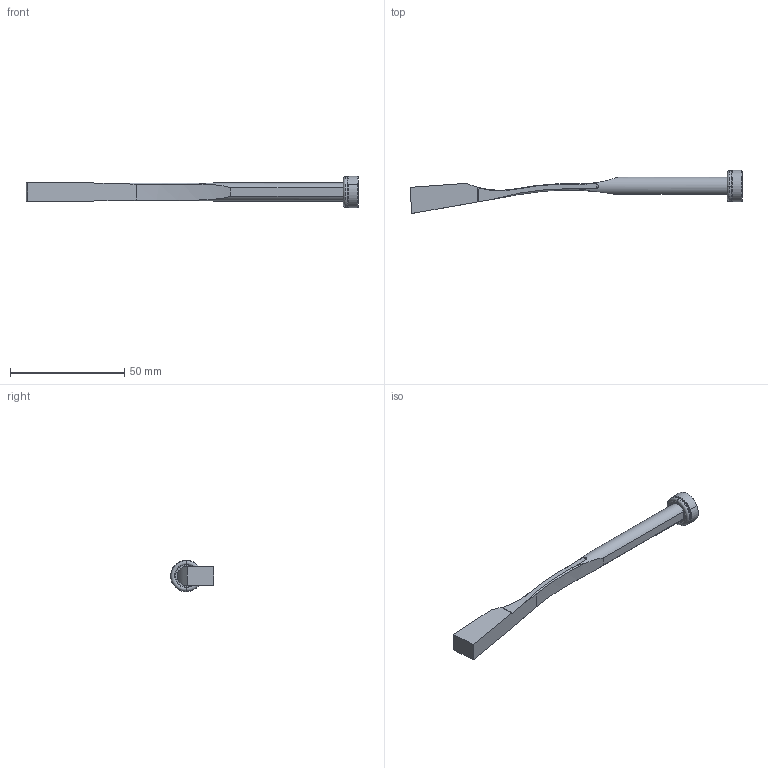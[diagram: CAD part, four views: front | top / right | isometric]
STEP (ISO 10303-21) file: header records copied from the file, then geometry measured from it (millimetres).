
FILE_DESCRIPTION (( 'STEP AP214' ), '1' );
FILE_NAME ('pw080825_ejection.STEP', '2021-07-15T09:12:21', ( '' ), ( '' ), 'SwSTEP 2.0', 'SolidWorks 2019', '' );
FILE_SCHEMA (( 'AUTOMOTIVE_DESIGN' ));
Length unit declared in the file: millimetre
Products named in the file (5): 9FP1406M5; 1DIN7984516_DIN 7984 - M5 x 16 --- 16C; 3JT9.5X2X13.5; pw080825_ejection; 9PW080825
Assembly tree (4 placements, depth 2):
  pw080825_ejection
    9PW080825
    9FP1406M5
    1DIN7984516_DIN 7984 - M5 x 16 --- 16C
    3JT9.5X2X13.5
Bounding box: 145.51 x 18.87 x 13.8 mm (x, y, z)
Volume: 6954.5 mm3; surface area: 5601.5 mm2
Topology: 4 solids, 4 shells, 454 faces, 1228 edges, 804 vertices
Faces by surface type: bspline 249, plane 106, cylinder 63, cone 20, torus 16
Entity records: 25917 total; most frequent: CARTESIAN_POINT 16579, ORIENTED_EDGE 2448, EDGE_CURVE 1224, DIRECTION 909, B_SPLINE_CURVE_WITH_KNOTS 853, VERTEX_POINT 804, EDGE_LOOP 484, ADVANCED_FACE 454
